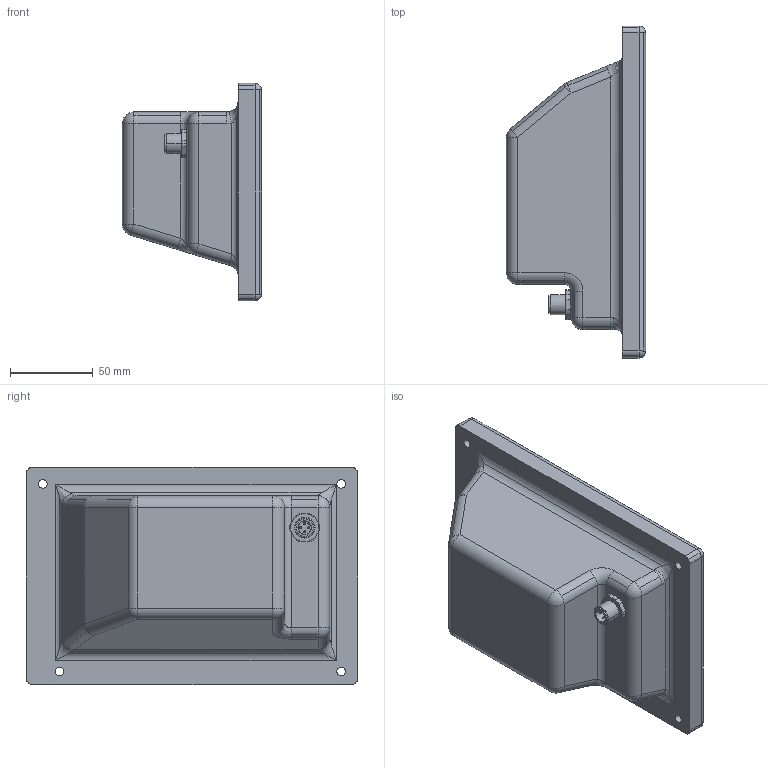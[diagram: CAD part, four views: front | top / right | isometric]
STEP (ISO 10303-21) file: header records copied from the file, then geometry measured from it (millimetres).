
FILE_DESCRIPTION((''),'2;1');
FILE_NAME('C:\Dokumente und Einstellungen\Kramp\Eigene Dateien\Microsonic Nacharbeit 2\restliche Änderungen\STP\wms-251_RT.stp','2005-08-11T08:23:03',('Kramp'),(''),'Autodesk Inventor 7','Autodesk Inventor 7','');
FILE_SCHEMA(('AUTOMOTIVE_DESIGN { 1 0 10303 214 1 1 1 1 }'));
Length unit declared in the file: millimetre
Products named in the file (1): wms-251_RT
Bounding box: 84 x 200 x 131.1 mm (x, y, z)
Volume: 772330.4 mm3; surface area: 98904 mm2
Topology: 1 solids, 3 shells, 260 faces, 623 edges, 361 vertices
Faces by surface type: cylinder 118, bspline 47, plane 46, cone 20, sphere 15, torus 14
Entity records: 9528 total; most frequent: CARTESIAN_POINT 3658, DIRECTION 1291, ORIENTED_EDGE 1202, EDGE_CURVE 601, AXIS2_PLACEMENT_3D 544, VERTEX_POINT 361, CIRCLE 312, EDGE_LOOP 282
